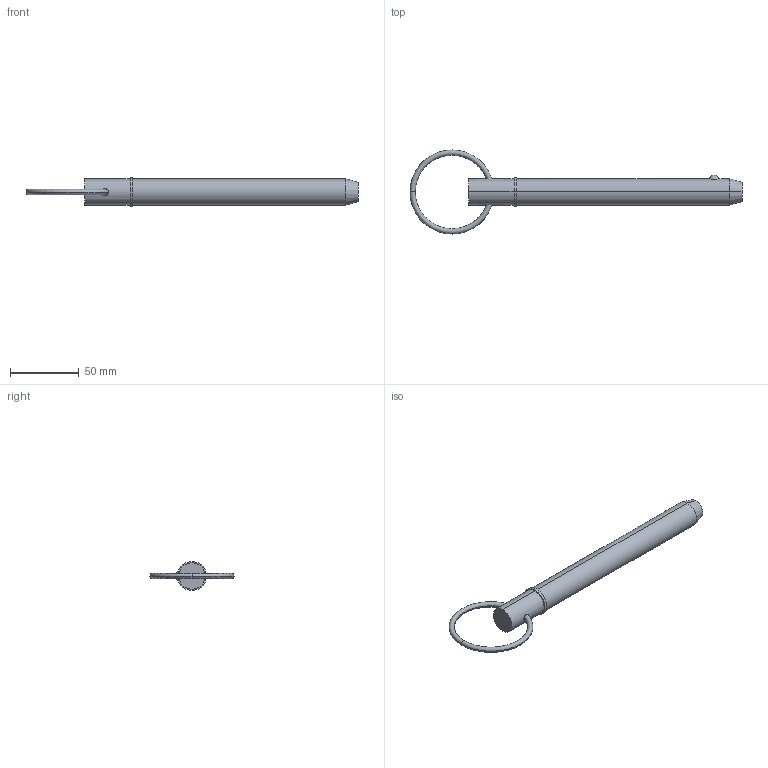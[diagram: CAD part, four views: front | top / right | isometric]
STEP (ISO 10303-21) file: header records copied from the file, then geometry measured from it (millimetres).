
FILE_DESCRIPTION (( 'STEP AP203' ), '1' );
FILE_NAME ('33014.W7555.step', '2024-11-04T08:36:18', ( '' ), ( '' ), 'SwSTEP 2.0', 'SolidWorks 2019', '' );
FILE_SCHEMA (( 'CONFIG_CONTROL_DESIGN' ));
Length unit declared in the file: millimetre
Products named in the file (3): Part1_33014.W7555; Part2_33014.W7555; 33014.W7555
Assembly tree (2 placements, depth 2):
  33014.W7555
    Part1_33014.W7555
    Part2_33014.W7555
Bounding box: 240.9 x 60.96 x 20.95 mm (x, y, z)
Volume: 57863.7 mm3; surface area: 14827.2 mm2
Topology: 2 solids, 2 shells, 22 faces, 43 edges, 26 vertices
Faces by surface type: torus 8, cylinder 6, plane 4, sphere 2, cone 2
Entity records: 1053 total; most frequent: CARTESIAN_POINT 276, DIRECTION 120, ORIENTED_EDGE 86, AXIS2_PLACEMENT_3D 56, EDGE_CURVE 43, CIRCLE 29, EDGE_LOOP 27, PERSON_AND_ORGANIZATION 26
